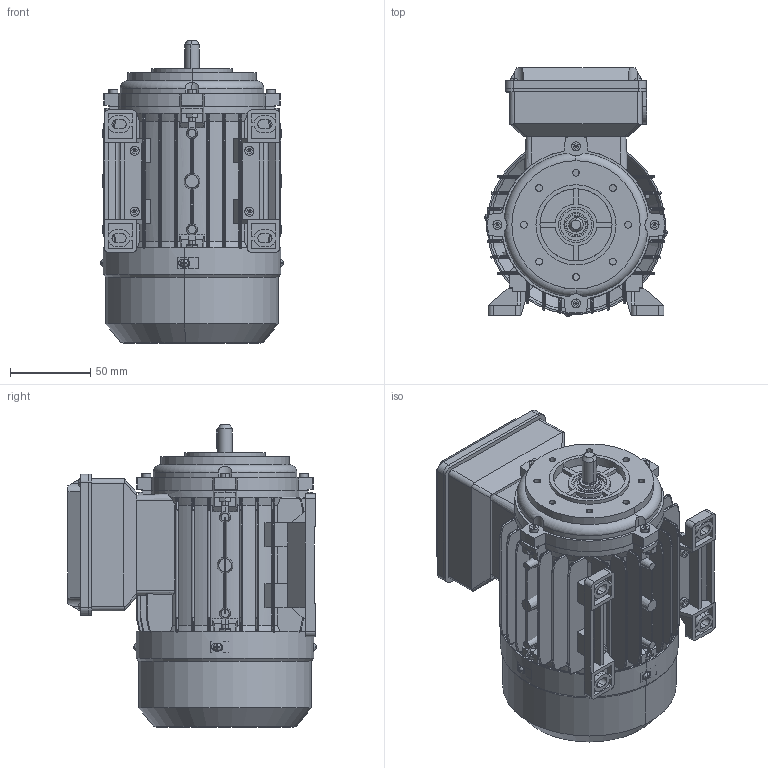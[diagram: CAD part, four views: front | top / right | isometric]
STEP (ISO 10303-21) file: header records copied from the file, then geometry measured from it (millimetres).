
FILE_DESCRIPTION (( 'STEP AP203' ), '1' );
FILE_NAME ('B34.STEP', '2019-09-09T12:58:59', ( '微软中国' ), ( '微软中国' ), 'SwSTEP 2.0', 'SolidWorks 2012', '' );
FILE_SCHEMA (( 'CONFIG_CONTROL_DESIGN' ));
Length unit declared in the file: millimetre
Products named in the file (16): B34; 瑩; 菁褐; 蹟譫; 蹟邡; 蹟隊; 諉盄碟裔; 諉盄碟釱; 瑞欶; 瑞珔; 蚐猾; 粣創; 蛌赽; B3綴裔; B14; 儂褲
Assembly tree (41 placements, depth 2):
  B34
    儂褲
    B14
    B3綴裔
    蛌赽
    粣創
    蚐猾
    瑞珔
    瑞欶
    諉盄碟釱
    諉盄碟裔
    蹟隊  x8
    蹟邡  x12
    蹟譫  x8
    菁褐  x2
    瑩
Bounding box: 113.63 x 154.82 x 188.61 mm (x, y, z)
Volume: 386286.7 mm3; surface area: 325758.6 mm2
Topology: 44 solids, 44 shells, 2464 faces, 6371 edges, 4080 vertices
Faces by surface type: plane 1292, cylinder 867, cone 147, bspline 98, torus 60
Entity records: 66818 total; most frequent: CARTESIAN_POINT 17782, ORIENTED_EDGE 10082, DIRECTION 9300, EDGE_CURVE 5041, VERTEX_POINT 3237, AXIS2_PLACEMENT_3D 3159, LINE 2982, VECTOR 2982
